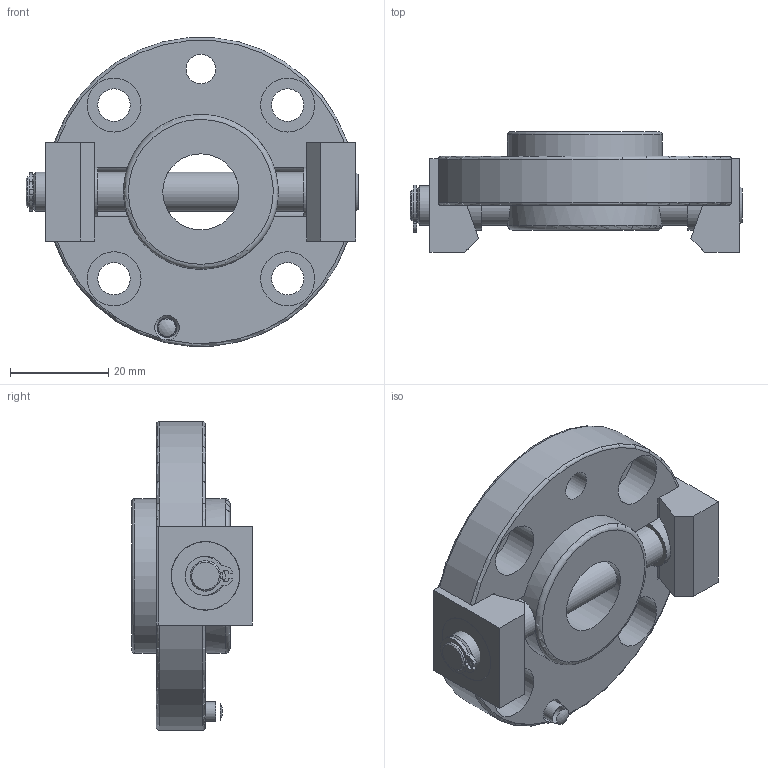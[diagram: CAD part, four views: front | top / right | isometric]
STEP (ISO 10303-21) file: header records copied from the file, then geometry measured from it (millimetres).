
FILE_DESCRIPTION(/* description */ (''),/* implementation_level */ '2;1');
FILE_NAME(/* name */ '\\dc01\daten\CAD\Standard\Daten\3D-Datenbank\SWA\4 - 3D-CAD-Daten SWA 050-160\SWA063\step-Daten\G-SWA063-2O.stp',/* time_stamp */ '2020-01-29T15:47:50+01:00',/* author */ ('ysplieth'),/* organization */ (''),/* preprocessor_version */ 'ST-DEVELOPER v17',/* originating_system */ 'Autodesk Inventor 2018',/* authorisation */ '');
FILE_SCHEMA (('AUTOMOTIVE_DESIGN { 1 0 10303 214 3 1 1 }'));
Length unit declared in the file: millimetre
Products named in the file (1): Bauteil16
Bounding box: 67.6 x 24.5 x 62.83 mm (x, y, z)
Volume: 36406.3 mm3; surface area: 17993.3 mm2
Topology: 9 solids, 9 shells, 139 faces, 383 edges, 271 vertices
Faces by surface type: plane 74, cylinder 47, cone 10, torus 6, sphere 2
Full cylindrical faces by diameter (mm): 3.5 x2, 4 x2, 4.134 x1, 5 x1, 5.5 x1, 6 x2, 6.2 x1, 6.6 x4, 6.647 x2, 7.4 x2, 8 x2, 8.1 x2, 10 x4, 11 x4, 13.9 x2, 14 x2, 15.5 x1, 31.5 x2
Entity records: 5072 total; most frequent: CARTESIAN_POINT 1127, DIRECTION 795, ORIENTED_EDGE 764, EDGE_CURVE 382, AXIS2_PLACEMENT_3D 310, VERTEX_POINT 271, EDGE_LOOP 177, LINE 175
